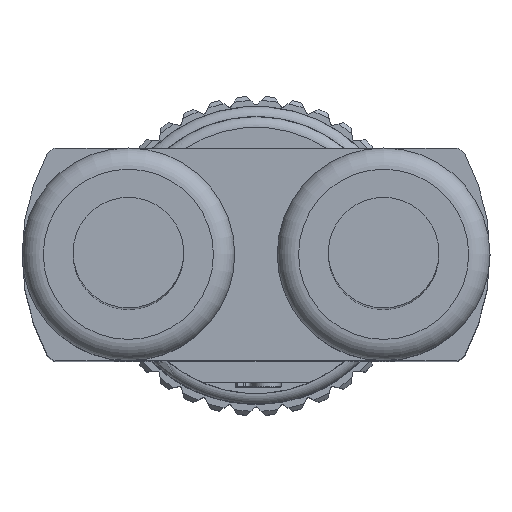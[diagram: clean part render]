
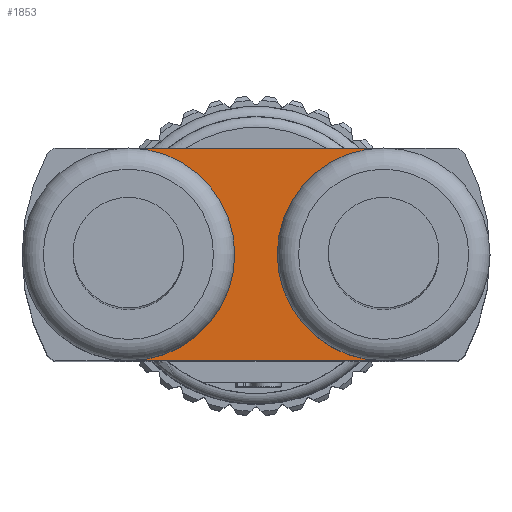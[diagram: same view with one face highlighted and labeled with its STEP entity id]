
A CAD part, top view. The second image highlights one B-rep face of the part: STEP entity #1853.
In plain terms, the highlighted planar face has unit normal (0, 0, 1).
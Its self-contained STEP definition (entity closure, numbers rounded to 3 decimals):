
#613=FACE_OUTER_BOUND('',#2930,.T.);
#1853=ADVANCED_FACE('',(#613),#2523,.T.);
#2523=PLANE('',#12690);
#2930=EDGE_LOOP('',(#5532,#5533,#5534,#5535));
#3699=LINE('',#17284,#4499);
#3700=LINE('',#17288,#4500);
#4499=VECTOR('',#13832,1.);
#4500=VECTOR('',#13835,1.);
#5532=ORIENTED_EDGE('',*,*,#10374,.F.);
#5533=ORIENTED_EDGE('',*,*,#10375,.T.);
#5534=ORIENTED_EDGE('',*,*,#10376,.F.);
#5535=ORIENTED_EDGE('',*,*,#10377,.T.);
#9135=VERTEX_POINT('',#17275);
#9138=VERTEX_POINT('',#17283);
#9139=VERTEX_POINT('',#17285);
#9140=VERTEX_POINT('',#17287);
#10374=EDGE_CURVE('',#9135,#9138,#12148,.T.);
#10375=EDGE_CURVE('',#9135,#9139,#3699,.T.);
#10376=EDGE_CURVE('',#9140,#9139,#12149,.T.);
#10377=EDGE_CURVE('',#9140,#9138,#3700,.T.);
#12148=CIRCLE('',#12688,5.);
#12149=CIRCLE('',#12689,5.);
#12688=AXIS2_PLACEMENT_3D('',#17282,#13830,#13831);
#12689=AXIS2_PLACEMENT_3D('',#17286,#13833,#13834);
#12690=AXIS2_PLACEMENT_3D('',#17289,#13836,#13837);
#13830=DIRECTION('',(0.,0.,1.));
#13831=DIRECTION('',(-1.,0.,0.));
#13832=DIRECTION('',(1.,0.,0.));
#13833=DIRECTION('',(0.,0.,1.));
#13834=DIRECTION('',(-1.,0.,0.));
#13835=DIRECTION('',(-1.,0.,0.));
#13836=DIRECTION('',(0.,0.,1.));
#13837=DIRECTION('',(-1.,0.,0.));
#17275=CARTESIAN_POINT('',(-6.,-5.,33.));
#17282=CARTESIAN_POINT('',(-6.,0.,33.));
#17283=CARTESIAN_POINT('',(-6.,5.,33.));
#17284=CARTESIAN_POINT('',(-9.66,-5.,33.));
#17285=CARTESIAN_POINT('',(6.,-5.,33.));
#17286=CARTESIAN_POINT('',(6.,0.,33.));
#17287=CARTESIAN_POINT('',(6.,5.,33.));
#17288=CARTESIAN_POINT('',(9.66,5.,33.));
#17289=CARTESIAN_POINT('',(-1.,0.,33.));
